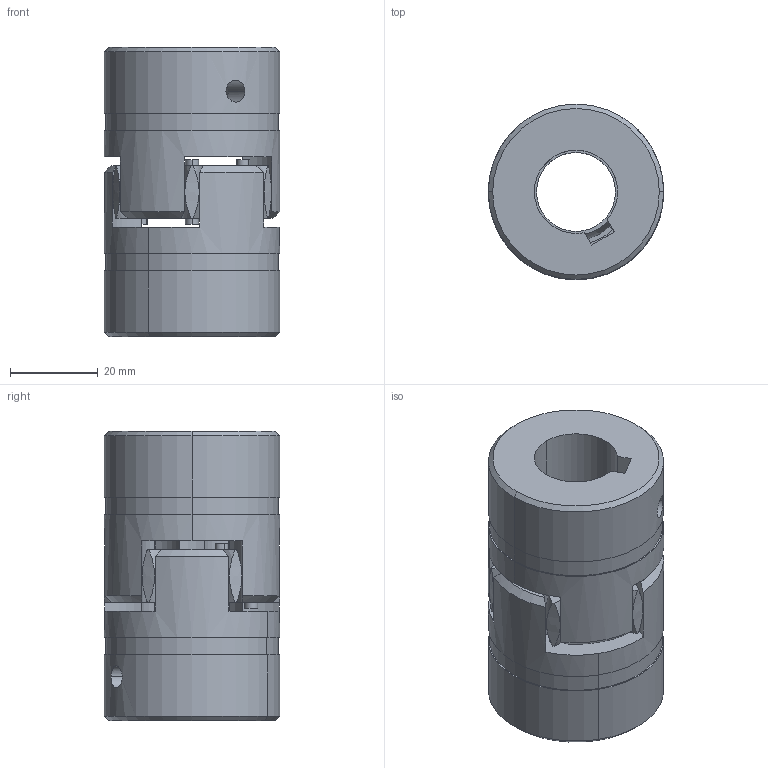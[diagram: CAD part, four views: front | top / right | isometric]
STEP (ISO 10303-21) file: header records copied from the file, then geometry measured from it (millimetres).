
FILE_DESCRIPTION (( 'STEP AP214' ), '1' );
FILE_NAME ('Po³¹czenie Rotex 19.STEP', '2026-05-26T07:52:39', ( '' ), ( '' ), 'SwSTEP 2.0', 'SolidWorks 2022', '' );
FILE_SCHEMA (( 'AUTOMOTIVE_DESIGN' ));
Length unit declared in the file: millimetre
Products named in the file (4): Rotex 19.stp; £¹cznik Rotex 19.stp; Po³¹czenie Rotex 19
Assembly tree (3 placements, depth 2):
  Po³¹czenie Rotex 19
    £¹cznik Rotex 19.stp
    Rotex 19.stp
    Rotex 19.stp
Bounding box: 40 x 40 x 66 mm (x, y, z)
Volume: 58703.7 mm3; surface area: 20246 mm2
Topology: 3 solids, 3 shells, 116 faces, 296 edges, 196 vertices
Faces by surface type: cylinder 54, plane 28, bspline 24, cone 10
Entity records: 5794 total; most frequent: CARTESIAN_POINT 2898, ORIENTED_EDGE 592, DIRECTION 554, EDGE_CURVE 296, AXIS2_PLACEMENT_3D 236, VERTEX_POINT 196, CIRCLE 138, EDGE_LOOP 136
